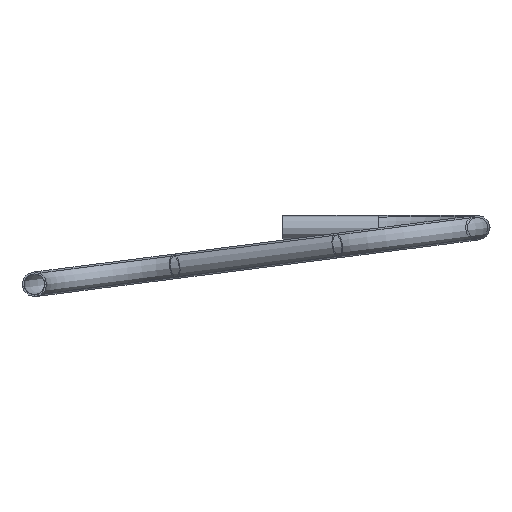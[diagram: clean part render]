
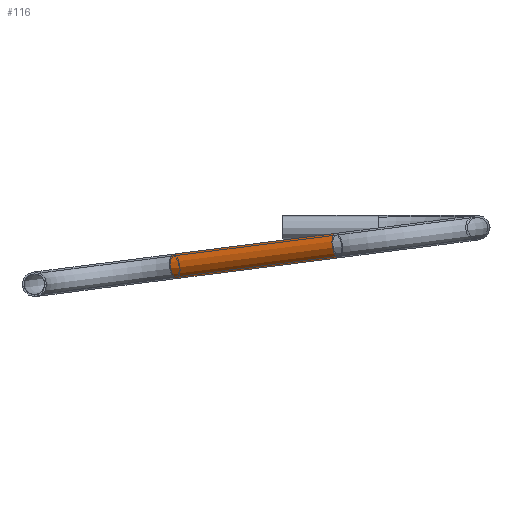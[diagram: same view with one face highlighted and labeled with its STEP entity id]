
A CAD part, left-side view. The second image highlights one B-rep face of the part: STEP entity #116.
In plain terms, the highlighted cylindrical face has radius 1.75 mm (diameter 3.5 mm), a full revolution.
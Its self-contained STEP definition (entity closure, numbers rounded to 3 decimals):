
#116=ADVANCED_FACE('',(#152,#153),#127,.T.);
#127=CYLINDRICAL_SURFACE('',#301,1.75);
#152=FACE_BOUND('',#184,.T.);
#153=FACE_BOUND('',#185,.T.);
#184=EDGE_LOOP('',(#216));
#185=EDGE_LOOP('',(#217));
#216=ORIENTED_EDGE('',*,*,#255,.T.);
#217=ORIENTED_EDGE('',*,*,#253,.F.);
#237=VERTEX_POINT('',#409);
#239=VERTEX_POINT('',#415);
#253=EDGE_CURVE('',#237,#237,#269,.T.);
#255=EDGE_CURVE('',#239,#239,#271,.T.);
#269=CIRCLE('',#296,1.75);
#271=CIRCLE('',#300,1.75);
#296=AXIS2_PLACEMENT_3D('',#408,#353,#354);
#300=AXIS2_PLACEMENT_3D('',#414,#361,#362);
#301=AXIS2_PLACEMENT_3D('',#416,#363,#364);
#353=DIRECTION('',(0.425,0.898,-0.115));
#354=DIRECTION('',(0.898,-0.402,0.179));
#361=DIRECTION('',(0.425,0.898,-0.115));
#362=DIRECTION('',(0.898,-0.402,0.179));
#363=DIRECTION('',(0.425,0.898,-0.115));
#364=DIRECTION('',(-0.904,0.428,0.));
#408=CARTESIAN_POINT('',(23.674,-19.786,2.533));
#409=CARTESIAN_POINT('',(25.245,-20.49,2.847));
#414=CARTESIAN_POINT('',(12.826,-42.714,5.467));
#415=CARTESIAN_POINT('',(14.398,-43.417,5.781));
#416=CARTESIAN_POINT('',(12.826,-42.714,5.467));
